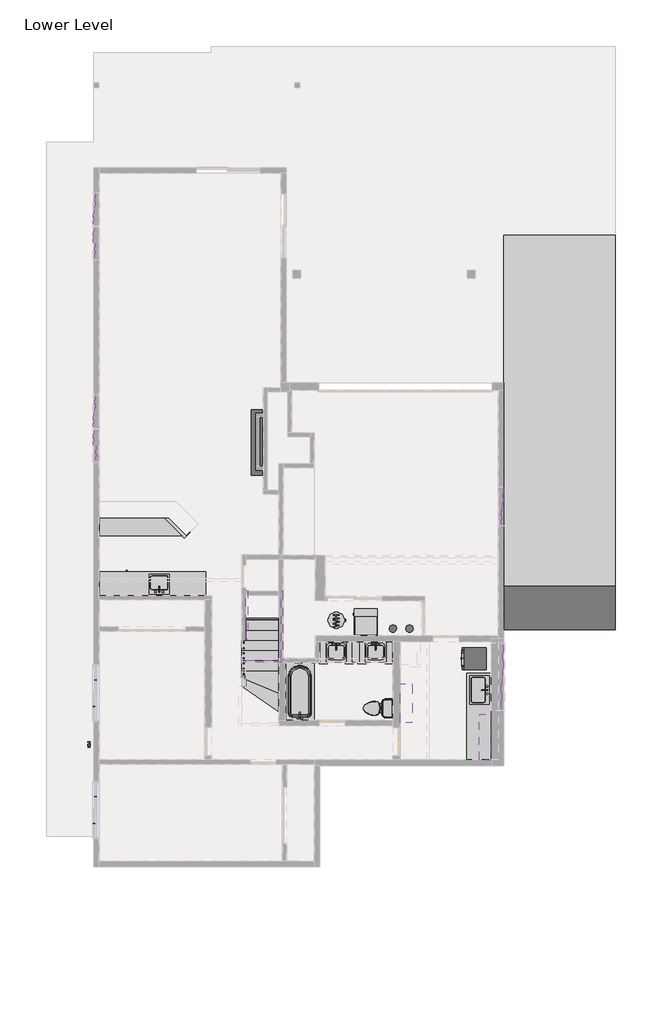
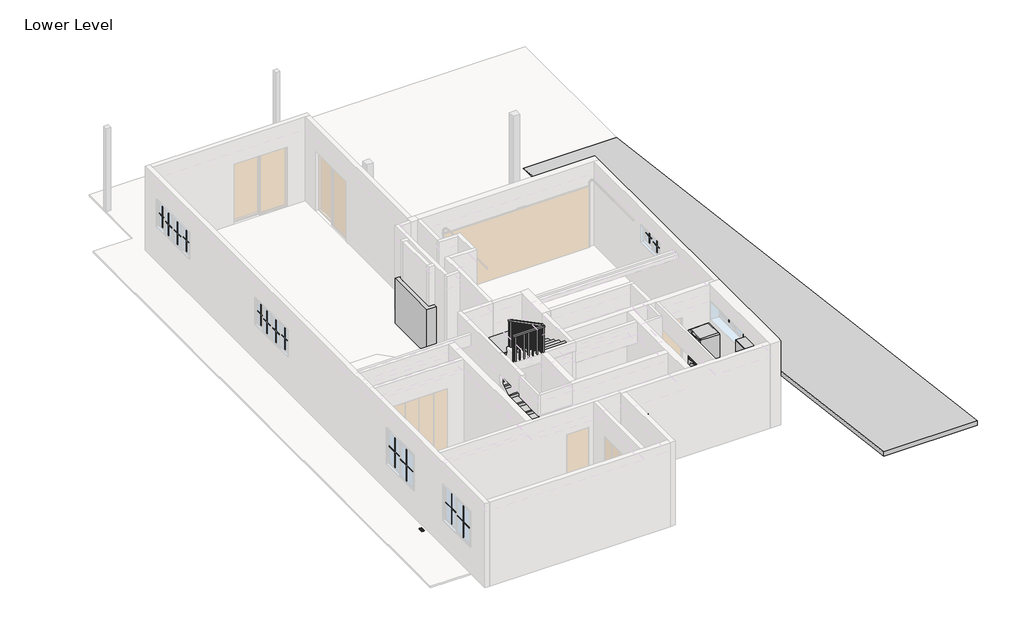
# One storey, part 3 of 3: 34 proxies, 6 flow terminals, 2 furniture elements, 2 railings, 1 ramp, 1 stair flight.
"""IFC4 building model written with IfcOpenShell, lengths in millimetres."""

from ifc_helpers import new_model, si_unit, frame, origin, origin_with_axes, place, context, project, spatial, polyline, outline, extrude, faceted_brep, transform, mapped, element, save
from components import countertop_rectangle_shape_base_default_1_3255693c, countertop_rectangle_shape_base_default_1_b1a04b2f, fireplace_default_1_dd52ab6f, furnace_default_1_517aed99, heat_recovery_ventilator_default_1_e4db727e, hot_water_heater_default_1_dcdfe45b, hydro_meter_default_1_de04d33e, muntin_pattern_2x2_muntin_pattern_2x2_5e7f5336, muntin_pattern_2x2_muntin_pattern_2x2_1f843837, muntin_pattern_2x2_muntin_pattern_2x2_a48e9f40, muntin_pattern_2x2_muntin_pattern_2x2_9f8866d9, muntin_pattern_2x2_muntin_pattern_2x2_3179e719, washer_dryer_combo_stacked_default_1_eb8726c9, washer_dryer_combo_stacked_default_1_a79531fe, wine_under_default_1_0eb686b8, flow_terminal_2d_kitchen_single_sink_default_1_444df6f0, flow_terminal_2d_kitchen_single_sink_default_1_1c0c6233, bath_basin_do_not_use_500_x_440mm_22030706, bath_bathtub_default_1_baae1865, toilet_default_1_5cb52bd4, toilet_default_1_183bbd19, furniture_8e5b1bc1, furniture_c8382fdc, railing_900mm_rectangular_stringer_only_816b19ed, ramp_2_5e5b59bc, stair_flight_50mm_tread_25mm_nosing_13mm_riser_cc5dda1c

model = new_model("IFC4")

# Units and contexts
model_context = context("Model", 3, world=origin())
ifc_project = project(units=[si_unit("LENGTHUNIT", "METRE", prefix="MILLI")], contexts=[model_context])

# Site, building, storey
site = spatial("IfcSite", under=ifc_project)
building = spatial("IfcBuilding", under=site)
storey = spatial("IfcBuildingStorey", under=building, Name="Lower Level", Elevation=-2844.8)

# Proxies
placement = place(None, origin())
element("IfcBuildingElementProxy", 1, Name="Countertop- Rectangle shape base : Default 1", ObjectType="Countertop- Rectangle shape base : Default 1", at=placement, inside=storey, context=model_context, shape_type="SweptSolid", body=[
    extrude(outline(polyline([(-3531.4755931, 381.3061456), (-3531.4755931, 112.2402436), (-3800.5414952, 381.3061456), (-3531.4755931, 381.3061456)])), frame((0.0, 0.0, -2844.8), z_axis=(0.0, 0.0, 1.0), x_axis=(1.0, 0.0, 0.0)), (0.0, 0.0, 1.0), 101.6),
    extrude(outline(polyline([(-3531.4755931, -2.1268711), (-5588.8755931, -2.1268711), (-5588.8755931, 381.3061456), (-3811.3268809, 381.3061456), (-3531.4755931, 101.4548579), (-3531.4755931, -2.1268711)])), frame((0.0, 0.0, -2844.8), z_axis=(0.0, 0.0, 1.0), x_axis=(1.0, 0.0, 0.0)), (0.0, 0.0, 1.0), 101.6),
    extrude(outline(polyline([(-5690.4755931, -103.7268711), (-5690.4755931, 482.9061456), (-3926.2209591, 482.9061456), (-3986.0232761, 423.1038286), (-3459.1925765, -103.7268711), (-5690.4755931, -103.7268711)])), frame((0.0, 0.0, -2743.2), z_axis=(0.0, 0.0, 1.0), x_axis=(1.0, 0.0, 0.0)), (0.0, 0.0, 1.0), 774.7),
    extrude(outline(polyline([(-3429.8755931, 482.9061456), (-3429.8755931, 143.5389558), (-3769.2427829, 482.9061456), (-3429.8755931, 482.9061456)])), frame((0.0, 0.0, -2743.2), z_axis=(0.0, 0.0, 1.0), x_axis=(1.0, 0.0, 0.0)), (0.0, 0.0, 1.0), 774.7),
    extrude(outline(polyline([(-5709.5255931, -122.7768711), (-5709.5255931, 501.9561456), (-3934.1117275, 501.9561456), (-4012.9640445, 423.1038286), (-3467.0833448, -122.7768711), (-5709.5255931, -122.7768711)])), frame((0.0, 0.0, -1968.5), z_axis=(0.0, 0.0, 1.0), x_axis=(1.0, 0.0, 0.0)), (0.0, 0.0, 1.0), 38.1),
    extrude(outline(polyline([(-3761.3520146, 501.9561456), (-3410.8255931, 501.9561456), (-3410.8255931, 151.4297242), (-3761.3520146, 501.9561456)])), frame((0.0, 0.0, -1968.5), z_axis=(0.0, 0.0, 1.0), x_axis=(1.0, 0.0, 0.0)), (0.0, 0.0, 1.0), 38.1),
])
element("IfcBuildingElementProxy", 2, Name="Countertop- Rectangle shape base : Default 1", ObjectType="Countertop- Rectangle shape base : Default 1", at=placement, inside=storey, context=model_context, shape_type="Brep", body=[
    faceted_brep([(-3403.518286, -26.5024493, -2743.2), (-3398.1255931, -21.1097564, -2743.2), (-3531.4755931, 112.2402436, -2743.2), (-3800.5414952, 381.3061456, -2743.2), (-3842.3391782, 423.1038286, -2743.2), (-3847.731871, 417.7111358, -2743.2), (-3811.3268809, 381.3061456, -2743.2), (-3531.4755931, 101.4548579, -2743.2), (-3403.518286, -26.5024493, -2844.8), (-3531.4755931, 101.4548579, -2844.8), (-3811.3268809, 381.3061456, -2844.8), (-3847.731871, 417.7111358, -2844.8), (-3842.3391782, 423.1038286, -2844.8), (-3800.5414952, 381.3061456, -2844.8), (-3531.4755931, 112.2402436, -2844.8), (-3398.1255931, -21.1097564, -2844.8)], [[[0, 1, 2, 3, 4, 5, 6, 7]], [[8, 9, 10, 11, 12, 13, 14, 15]], [[0, 7, 6, 5, 11, 10, 9, 8]], [[5, 4, 12, 11]], [[4, 3, 2, 1, 15, 14, 13, 12]], [[1, 0, 8, 15]]]),
    faceted_brep([(-3259.834188, -26.5024493, -2743.2), (-3398.1255931, -164.7938544, -2743.2), (-3459.1925765, -103.7268711, -2743.2), (-3986.0232761, 423.1038286, -2743.2), (-3926.2209591, 482.9061456, -2743.2), (-3847.731871, 561.3952337, -2743.2), (-3769.2427829, 482.9061456, -2743.2), (-3429.8755931, 143.5389558, -2743.2), (-3259.834188, -26.5024493, -1968.5), (-3429.8755931, 143.5389558, -1968.5), (-3769.2427829, 482.9061456, -1968.5), (-3847.731871, 561.3952337, -1968.5), (-3926.2209591, 482.9061456, -1968.5), (-3986.0232761, 423.1038286, -1968.5), (-3459.1925765, -103.7268711, -1968.5), (-3398.1255931, -164.7938544, -1968.5)], [[[0, 1, 2, 3, 4, 5, 6, 7]], [[8, 9, 10, 11, 12, 13, 14, 15]], [[11, 10, 9, 8, 0, 7, 6, 5]], [[13, 12, 11, 5, 4, 3]], [[15, 14, 13, 3, 2, 1]], [[8, 15, 1, 0]]]),
    faceted_brep([(-4012.9640445, 423.1038286, -1930.4), (-3467.0833448, -122.7768711, -1930.4), (-3398.1255931, -191.7346227, -1930.4), (-3232.8934197, -26.5024493, -1930.4), (-3410.8255931, 151.4297242, -1930.4), (-3761.3520146, 501.9561456, -1930.4), (-3847.731871, 588.3360021, -1930.4), (-3934.1117275, 501.9561456, -1930.4), (-4012.9640445, 423.1038286, -1968.5), (-3934.1117275, 501.9561456, -1968.5), (-3847.731871, 588.3360021, -1968.5), (-3761.3520146, 501.9561456, -1968.5), (-3410.8255931, 151.4297242, -1968.5), (-3232.8934197, -26.5024493, -1968.5), (-3398.1255931, -191.7346227, -1968.5), (-3467.0833448, -122.7768711, -1968.5)], [[[0, 1, 2, 3, 4, 5, 6, 7]], [[8, 9, 10, 11, 12, 13, 14, 15]], [[2, 1, 0, 8, 15, 14]], [[3, 2, 14, 13]], [[6, 5, 4, 3, 13, 12, 11, 10]], [[0, 7, 6, 10, 9, 8]]]),
])
element("IfcBuildingElementProxy", 3, Name="Countertop- Rectangle shape base : Default 1", ObjectType="Countertop- Rectangle shape base : Default 1", at=placement, inside=storey, context=model_context, shape_type="SolidModel", body=[
    extrude(outline(polyline([(335.6744069, -3079.4438544), (354.7244069, -3079.4438544), (354.7244069, -3460.1718487), (335.6744069, -3460.1718487), (335.6744069, -3079.4438544)])), frame((0.0, 0.0, -2844.8), z_axis=(0.0, 0.0, 1.0), x_axis=(1.0, 0.0, 0.0)), (0.0, 0.0, 1.0), 101.6),
    faceted_brep([(437.2744069, -2977.8438544, -2743.2), (437.2744069, -3517.5938544, -2743.2), (437.2744069, -3561.7718487, -2743.2), (253.1244069, -3561.7718487, -2743.2), (253.1244069, -2977.8438544, -2743.2), (437.2744069, -2977.8438544, -1968.5), (253.1244069, -2977.8438544, -1968.5), (253.1244069, -3561.7718487, -1968.5), (437.2744069, -3561.7718487, -1968.5), (437.2744069, -3517.5938544, -1968.5)], [[[0, 1, 2, 3, 4]], [[5, 6, 7, 8, 9]], [[6, 5, 0, 4]], [[7, 6, 4, 3]], [[8, 7, 3, 2]], [[5, 9, 8, 2, 1, 0]]]),
    extrude(outline(polyline([(234.0744069, -3580.8218487), (234.0744069, -2958.7938544), (418.2244069, -2958.7938544), (418.2244069, -3536.6438544), (456.3244069, -3536.6438544), (456.3244069, -3580.8218487), (234.0744069, -3580.8218487)])), frame((0.0, 0.0, -1968.5), z_axis=(0.0, 0.0, 1.0), x_axis=(1.0, 0.0, 0.0)), (0.0, 0.0, 1.0), 38.1),
])
element("IfcBuildingElementProxy", 4, Name="Countertop- Rectangle shape base : Default 1", ObjectType="Countertop- Rectangle shape base : Default 1", at=placement, inside=storey, context=model_context, shape_type="SolidModel", body=[
    extrude(outline(polyline([(1040.5244069, -3079.4438544), (1059.5744069, -3079.4438544), (1059.5744069, -3460.1718487), (1040.5244069, -3460.1718487), (1040.5244069, -3079.4438544)])), frame((0.0, 0.0, -2844.8), z_axis=(0.0, 0.0, 1.0), x_axis=(1.0, 0.0, 0.0)), (0.0, 0.0, 1.0), 101.6),
    faceted_brep([(1142.1244069, -2977.8438544, -2743.2), (1142.1244069, -3517.5938544, -2743.2), (1142.1244069, -3561.7718487, -2743.2), (957.9744069, -3561.7718487, -2743.2), (957.9744069, -3517.5938544, -2743.2), (957.9744069, -2977.8438544, -2743.2), (1142.1244069, -2977.8438544, -1968.5), (957.9744069, -2977.8438544, -1968.5), (957.9744069, -3517.5938544, -1968.5), (957.9744069, -3561.7718487, -1968.5), (1142.1244069, -3561.7718487, -1968.5), (1142.1244069, -3517.5938544, -1968.5)], [[[0, 1, 2, 3, 4, 5]], [[6, 7, 8, 9, 10, 11]], [[7, 6, 0, 5]], [[9, 8, 7, 5, 4, 3]], [[10, 9, 3, 2]], [[6, 11, 10, 2, 1, 0]]]),
    extrude(outline(polyline([(1161.1744069, -3580.8218487), (938.9244069, -3580.8218487), (938.9244069, -3536.6438544), (977.0244069, -3536.6438544), (977.0244069, -2958.7938544), (1123.0744069, -2958.7938544), (1123.0744069, -3536.6438544), (1161.1744069, -3536.6438544), (1161.1744069, -3580.8218487)])), frame((0.0, 0.0, -1968.5), z_axis=(0.0, 0.0, 1.0), x_axis=(1.0, 0.0, 0.0)), (0.0, 0.0, 1.0), 38.1),
])
element("IfcBuildingElementProxy", 5, Name="Countertop- Rectangle shape base : Default 1", ObjectType="Countertop- Rectangle shape base : Default 1", at=placement, inside=storey, context=model_context, shape_type="SolidModel", body=[
    extrude(outline(polyline([(1383.4244069, -3079.4438544), (1402.4744069, -3079.4438544), (1402.4744069, -3460.1718487), (1383.4244069, -3460.1718487), (1383.4244069, -3079.4438544)])), frame((0.0, 0.0, -2844.8), z_axis=(0.0, 0.0, 1.0), x_axis=(1.0, 0.0, 0.0)), (0.0, 0.0, 1.0), 101.6),
    faceted_brep([(1485.0244069, -2977.8438544, -2743.2), (1485.0244069, -3517.5938544, -2743.2), (1485.0244069, -3561.7718487, -2743.2), (1300.8744069, -3561.7718487, -2743.2), (1300.8744069, -3517.5938544, -2743.2), (1300.8744069, -2977.8438544, -2743.2), (1485.0244069, -2977.8438544, -1968.5), (1300.8744069, -2977.8438544, -1968.5), (1300.8744069, -3517.5938544, -1968.5), (1300.8744069, -3561.7718487, -1968.5), (1485.0244069, -3561.7718487, -1968.5), (1485.0244069, -3517.5938544, -1968.5)], [[[0, 1, 2, 3, 4, 5]], [[6, 7, 8, 9, 10, 11]], [[7, 6, 0, 5]], [[9, 8, 7, 5, 4, 3]], [[10, 9, 3, 2]], [[6, 11, 10, 2, 1, 0]]]),
    extrude(outline(polyline([(1504.0744069, -3580.8218487), (1281.8244069, -3580.8218487), (1281.8244069, -3536.6438544), (1319.9244069, -3536.6438544), (1319.9244069, -2958.7938544), (1465.9744069, -2958.7938544), (1465.9744069, -3536.6438544), (1504.0744069, -3536.6438544), (1504.0744069, -3580.8218487)])), frame((0.0, 0.0, -1968.5), z_axis=(0.0, 0.0, 1.0), x_axis=(1.0, 0.0, 0.0)), (0.0, 0.0, 1.0), 38.1),
])
element("IfcBuildingElementProxy", 6, Name="Countertop- Rectangle shape base : Default 1", ObjectType="Countertop- Rectangle shape base : Default 1", at=placement, inside=storey, context=model_context, shape_type="SolidModel", body=[
    extrude(outline(polyline([(2120.0244069, -3079.4438544), (2139.0744069, -3079.4438544), (2139.0744069, -3460.1718487), (2120.0244069, -3460.1718487), (2120.0244069, -3079.4438544)])), frame((0.0, 0.0, -2844.8), z_axis=(0.0, 0.0, 1.0), x_axis=(1.0, 0.0, 0.0)), (0.0, 0.0, 1.0), 101.6),
    faceted_brep([(2221.6244069, -2977.8438544, -2743.2), (2221.6244069, -3561.7718487, -2743.2), (2037.4744069, -3561.7718487, -2743.2), (2037.4744069, -3517.5938544, -2743.2), (2037.4744069, -2977.8438544, -2743.2), (2221.6244069, -2977.8438544, -1968.5), (2037.4744069, -2977.8438544, -1968.5), (2037.4744069, -3517.5938544, -1968.5), (2037.4744069, -3561.7718487, -1968.5), (2221.6244069, -3561.7718487, -1968.5)], [[[0, 1, 2, 3, 4]], [[5, 6, 7, 8, 9]], [[6, 5, 0, 4]], [[8, 7, 6, 4, 3, 2]], [[9, 8, 2, 1]], [[5, 9, 1, 0]]]),
    extrude(outline(polyline([(2240.6744069, -2958.7938544), (2240.6744069, -3580.8218487), (2018.4244069, -3580.8218487), (2018.4244069, -3536.6438544), (2056.5244069, -3536.6438544), (2056.5244069, -2958.7938544), (2240.6744069, -2958.7938544)])), frame((0.0, 0.0, -1968.5), z_axis=(0.0, 0.0, 1.0), x_axis=(1.0, 0.0, 0.0)), (0.0, 0.0, 1.0), 38.1),
])
element("IfcBuildingElementProxy", 7, Name="Countertop- Rectangle shape base : Default 1", ObjectType="Countertop- Rectangle shape base : Default 1", at=placement, inside=storey, context=model_context, shape_type="SolidModel", body=[
    extrude(outline(polyline([(856.3744069, -3079.4438544), (856.3744069, -3415.9938544), (538.8744069, -3415.9938544), (538.8744069, -3079.4438544), (856.3744069, -3079.4438544)])), frame((0.0, 0.0, -2844.8), z_axis=(0.0, 0.0, 1.0), x_axis=(1.0, 0.0, 0.0)), (0.0, 0.0, 1.0), 101.6),
    extrude(outline(polyline([(957.9744069, -2977.8438544), (957.9744069, -3517.5938544), (437.2744069, -3517.5938544), (437.2744069, -2977.8438544), (957.9744069, -2977.8438544)])), frame((0.0, 0.0, -2743.2), z_axis=(0.0, 0.0, 1.0), x_axis=(1.0, 0.0, 0.0)), (0.0, 0.0, 1.0), 774.7),
    faceted_brep([(418.2244069, -3536.6438544, -1930.4), (456.3244069, -3536.6438544, -1930.4), (938.9244069, -3536.6438544, -1930.4), (977.0244069, -3536.6438544, -1930.4), (977.0244069, -2958.7938544, -1930.4), (418.2244069, -2958.7938544, -1930.4), (418.2244069, -3536.6438544, -1968.5), (418.2244069, -2958.7938544, -1968.5), (977.0244069, -2958.7938544, -1968.5), (977.0244069, -3536.6438544, -1968.5), (938.9244069, -3536.6438544, -1968.5), (456.3244069, -3536.6438544, -1968.5)], [[[0, 1, 2, 3, 4, 5]], [[6, 7, 8, 9, 10, 11]], [[3, 2, 1, 0, 6, 11, 10, 9]], [[4, 3, 9, 8]], [[5, 4, 8, 7]], [[0, 5, 7, 6]]]),
])
element("IfcBuildingElementProxy", 8, Name="Countertop- Rectangle shape base : Default 1", ObjectType="Countertop- Rectangle shape base : Default 1", at=placement, inside=storey, context=model_context, shape_type="SolidModel", body=[
    faceted_brep([(1465.9744069, -3536.6438544, -1930.4), (1504.0744069, -3536.6438544, -1930.4), (2018.4244069, -3536.6438544, -1930.4), (2056.5244069, -3536.6438544, -1930.4), (2056.5244069, -2958.7938544, -1930.4), (1465.9744069, -2958.7938544, -1930.4), (1465.9744069, -3536.6438544, -1968.5), (1465.9744069, -2958.7938544, -1968.5), (2056.5244069, -2958.7938544, -1968.5), (2056.5244069, -3536.6438544, -1968.5), (2018.4244069, -3536.6438544, -1968.5), (1504.0744069, -3536.6438544, -1968.5)], [[[0, 1, 2, 3, 4, 5]], [[6, 7, 8, 9, 10, 11]], [[3, 2, 1, 0, 6, 11, 10, 9]], [[4, 3, 9, 8]], [[5, 4, 8, 7]], [[0, 5, 7, 6]]]),
    extrude(outline(polyline([(1935.8744069, -3079.4438544), (1935.8744069, -3415.9938544), (1586.6244069, -3415.9938544), (1586.6244069, -3079.4438544), (1935.8744069, -3079.4438544)])), frame((0.0, 0.0, -2844.8), z_axis=(0.0, 0.0, 1.0), x_axis=(1.0, 0.0, 0.0)), (0.0, 0.0, 1.0), 101.6),
    extrude(outline(polyline([(2037.4744069, -2977.8438544), (2037.4744069, -3517.5938544), (1485.0244069, -3517.5938544), (1485.0244069, -2977.8438544), (2037.4744069, -2977.8438544)])), frame((0.0, 0.0, -2743.2), z_axis=(0.0, 0.0, 1.0), x_axis=(1.0, 0.0, 0.0)), (0.0, 0.0, 1.0), 774.7),
])
element("IfcBuildingElementProxy", 9, Name="Countertop- Rectangle shape base : Default 1", ObjectType="Countertop- Rectangle shape base : Default 1", at=placement, inside=storey, context=model_context, shape_type="SolidModel", body=[
    extrude(outline(polyline([(1199.2744069, -3079.4438544), (1243.7244069, -3079.4438544), (1243.7244069, -3415.9938544), (1199.2744069, -3415.9938544), (1199.2744069, -3079.4438544)])), frame((0.0, 0.0, -2844.8), z_axis=(0.0, 0.0, 1.0), x_axis=(1.0, 0.0, 0.0)), (0.0, 0.0, 1.0), 101.6),
    extrude(outline(polyline([(1300.8744069, -2977.8438544), (1300.8744069, -3517.5938544), (1142.1244069, -3517.5938544), (1142.1244069, -2977.8438544), (1300.8744069, -2977.8438544)])), frame((0.0, 0.0, -2743.2), z_axis=(0.0, 0.0, 1.0), x_axis=(1.0, 0.0, 0.0)), (0.0, 0.0, 1.0), 774.7),
    faceted_brep([(1123.0744069, -3536.6438544, -1930.4), (1161.1744069, -3536.6438544, -1930.4), (1281.8244069, -3536.6438544, -1930.4), (1319.9244069, -3536.6438544, -1930.4), (1319.9244069, -2958.7938544, -1930.4), (1123.0744069, -2958.7938544, -1930.4), (1123.0744069, -3536.6438544, -1968.5), (1123.0744069, -2958.7938544, -1968.5), (1319.9244069, -2958.7938544, -1968.5), (1319.9244069, -3536.6438544, -1968.5), (1281.8244069, -3536.6438544, -1968.5), (1161.1744069, -3536.6438544, -1968.5)], [[[0, 1, 2, 3, 4, 5]], [[6, 7, 8, 9, 10, 11]], [[3, 2, 1, 0, 6, 11, 10, 9]], [[4, 3, 9, 8]], [[5, 4, 8, 7]], [[0, 5, 7, 6]]]),
])
countertop_rectangle_shape_base_default_1_shape = countertop_rectangle_shape_base_default_1_3255693c(model_context)
element("IfcBuildingElementProxy", 10, Name="Countertop- Rectangle shape base : Default 1", ObjectType="Countertop- Rectangle shape base : Default 1", at=placement, inside=storey, context=model_context, shape_type="MappedRepresentation", body=[
    mapped(countertop_rectangle_shape_base_default_1_shape, transform((-5030.0755931, -1809.4438544, -2844.8), x_axis=(1.0, 0.0, 0.0), y_axis=(0.0, 1.0, 0.0), z_axis=(0.0, 0.0, 1.0))),
])
countertop_rectangle_shape_base_default_1_2_shape = countertop_rectangle_shape_base_default_1_b1a04b2f(model_context)
element("IfcBuildingElementProxy", 11, Name="Countertop- Rectangle shape base : Default 1", ObjectType="Countertop- Rectangle shape base : Default 1", at=placement, inside=storey, context=model_context, shape_type="MappedRepresentation", body=[
    mapped(countertop_rectangle_shape_base_default_1_2_shape, transform((4174.2494069, -4247.8438544, -2844.8), x_axis=(0.0, -1.0, 0.0), y_axis=(1.0, 0.0, 0.0), z_axis=(0.0, 0.0, 1.0))),
])
fireplace_default_1_shape = fireplace_default_1_dd52ab6f(model_context)
element("IfcBuildingElementProxy", 12, Name="Fireplace : Default 1", ObjectType="Fireplace : Default 1", at=placement, inside=storey, context=model_context, shape_type="MappedRepresentation", body=[
    mapped(fireplace_default_1_shape, transform((-1447.4473217, 3370.5205539, -2844.8), x_axis=(1.0, 0.0, 0.0), y_axis=(0.0, 1.0, 0.0), z_axis=(0.0, 0.0, 1.0))),
])
furnace_default_1_shape = furnace_default_1_517aed99(model_context)
element("IfcBuildingElementProxy", 13, Name="Furnace : Default 1", ObjectType="Furnace : Default 1", at=placement, inside=storey, context=model_context, shape_type="MappedRepresentation", body=[
    mapped(furnace_default_1_shape, transform((1186.5744069, -2812.7438544, -2844.8), x_axis=(-1.0, 0.0, 0.0), y_axis=(0.0, -1.0, 0.0), z_axis=(0.0, 0.0, 1.0))),
])
heat_recovery_ventilator_default_1_shape = heat_recovery_ventilator_default_1_e4db727e(model_context)
element("IfcBuildingElementProxy", 14, Name="Heat Recovery Ventilator : Default 1", ObjectType="Heat Recovery Ventilator : Default 1", at=placement, inside=storey, context=model_context, shape_type="MappedRepresentation", body=[
    mapped(heat_recovery_ventilator_default_1_shape, transform((2325.2244069, -2895.2938544, -2844.8), x_axis=(1.0, 0.0, 0.0), y_axis=(0.0, 1.0, 0.0), z_axis=(0.0, 0.0, 1.0))),
])
hot_water_heater_default_1_shape = hot_water_heater_default_1_dcdfe45b(model_context)
element("IfcBuildingElementProxy", 15, Name="Hot Water Heater : Default 1", ObjectType="Hot Water Heater : Default 1", at=placement, inside=storey, context=model_context, shape_type="MappedRepresentation", body=[
    mapped(hot_water_heater_default_1_shape, transform((697.6244069, -2399.9938544, -2844.8), x_axis=(0.0, 1.0, 0.0), y_axis=(-1.0, 0.0, 0.0), z_axis=(0.0, 0.0, 1.0))),
])
hydro_meter_default_1_shape = hydro_meter_default_1_de04d33e(model_context)
element("IfcBuildingElementProxy", 16, Name="Hydro Meter : Default 1", ObjectType="Hydro Meter : Default 1", at=placement, inside=storey, context=model_context, shape_type="MappedRepresentation", body=[
    mapped(hydro_meter_default_1_shape, transform((-5842.8755931, -5936.9438544, -2844.8), x_axis=(0.0, 1.0, 0.0), y_axis=(-1.0, 0.0, 0.0), z_axis=(0.0, 0.0, 1.0))),
])
muntin_pattern_2x2_muntin_pattern_2x2_shape = muntin_pattern_2x2_muntin_pattern_2x2_5e7f5336(model_context)
element("IfcBuildingElementProxy", 17, Name="Muntin Pattern_2x2 : Muntin Pattern_2x2", ObjectType="Muntin Pattern_2x2 : Muntin Pattern_2x2", at=placement, inside=storey, context=model_context, shape_type="MappedRepresentation", body=[
    mapped(muntin_pattern_2x2_muntin_pattern_2x2_shape, transform((-5788.9005931, 3428.6726026, -1543.05), x_axis=(0.0, 1.0, 0.0), y_axis=(-1.0, 0.0, 0.0), z_axis=(0.0, 0.0, 1.0))),
])
element("IfcBuildingElementProxy", 18, Name="Muntin Pattern_2x2 : Muntin Pattern_2x2", ObjectType="Muntin Pattern_2x2 : Muntin Pattern_2x2", at=placement, inside=storey, context=model_context, shape_type="MappedRepresentation", body=[
    mapped(muntin_pattern_2x2_muntin_pattern_2x2_shape, transform((-5833.3505931, 3012.7476026, -1543.05), x_axis=(0.0, 1.0, 0.0), y_axis=(-1.0, 0.0, 0.0), z_axis=(0.0, 0.0, 1.0))),
])
element("IfcBuildingElementProxy", 19, Name="Muntin Pattern_2x2 : Muntin Pattern_2x2", ObjectType="Muntin Pattern_2x2 : Muntin Pattern_2x2", at=placement, inside=storey, context=model_context, shape_type="MappedRepresentation", body=[
    mapped(muntin_pattern_2x2_muntin_pattern_2x2_shape, transform((-5788.9005931, 8889.6726026, -1543.05), x_axis=(0.0, 1.0, 0.0), y_axis=(-1.0, 0.0, 0.0), z_axis=(0.0, 0.0, 1.0))),
])
element("IfcBuildingElementProxy", 20, Name="Muntin Pattern_2x2 : Muntin Pattern_2x2", ObjectType="Muntin Pattern_2x2 : Muntin Pattern_2x2", at=placement, inside=storey, context=model_context, shape_type="MappedRepresentation", body=[
    mapped(muntin_pattern_2x2_muntin_pattern_2x2_shape, transform((-5833.3505931, 8473.7476026, -1543.05), x_axis=(0.0, 1.0, 0.0), y_axis=(-1.0, 0.0, 0.0), z_axis=(0.0, 0.0, 1.0))),
])
muntin_pattern_2x2_muntin_pattern_2x2_2_shape = muntin_pattern_2x2_muntin_pattern_2x2_1f843837(model_context)
element("IfcBuildingElementProxy", 21, Name="Muntin Pattern_2x2 : Muntin Pattern_2x2", ObjectType="Muntin Pattern_2x2 : Muntin Pattern_2x2", at=placement, inside=storey, context=model_context, shape_type="MappedRepresentation", body=[
    mapped(muntin_pattern_2x2_muntin_pattern_2x2_2_shape, transform((-5788.9005931, 2098.3476026, -1543.05), x_axis=(0.0, -1.0, 0.0), y_axis=(1.0, 0.0, 0.0), z_axis=(0.0, 0.0, 1.0))),
])
element("IfcBuildingElementProxy", 22, Name="Muntin Pattern_2x2 : Muntin Pattern_2x2", ObjectType="Muntin Pattern_2x2 : Muntin Pattern_2x2", at=placement, inside=storey, context=model_context, shape_type="MappedRepresentation", body=[
    mapped(muntin_pattern_2x2_muntin_pattern_2x2_2_shape, transform((-5833.3505931, 2514.2726026, -1543.05), x_axis=(0.0, -1.0, 0.0), y_axis=(1.0, 0.0, 0.0), z_axis=(0.0, 0.0, 1.0))),
])
element("IfcBuildingElementProxy", 23, Name="Muntin Pattern_2x2 : Muntin Pattern_2x2", ObjectType="Muntin Pattern_2x2 : Muntin Pattern_2x2", at=placement, inside=storey, context=model_context, shape_type="MappedRepresentation", body=[
    mapped(muntin_pattern_2x2_muntin_pattern_2x2_2_shape, transform((-5788.9005931, 7559.3476026, -1543.05), x_axis=(0.0, -1.0, 0.0), y_axis=(1.0, 0.0, 0.0), z_axis=(0.0, 0.0, 1.0))),
])
element("IfcBuildingElementProxy", 24, Name="Muntin Pattern_2x2 : Muntin Pattern_2x2", ObjectType="Muntin Pattern_2x2 : Muntin Pattern_2x2", at=placement, inside=storey, context=model_context, shape_type="MappedRepresentation", body=[
    mapped(muntin_pattern_2x2_muntin_pattern_2x2_2_shape, transform((-5833.3505931, 7975.2726026, -1543.05), x_axis=(0.0, -1.0, 0.0), y_axis=(1.0, 0.0, 0.0), z_axis=(0.0, 0.0, 1.0))),
])
muntin_pattern_2x2_muntin_pattern_2x2_3_shape = muntin_pattern_2x2_muntin_pattern_2x2_a48e9f40(model_context)
element("IfcBuildingElementProxy", 25, Name="Muntin Pattern_2x2 : Muntin Pattern_2x2", ObjectType="Muntin Pattern_2x2 : Muntin Pattern_2x2", at=placement, inside=storey, context=model_context, shape_type="MappedRepresentation", body=[
    mapped(muntin_pattern_2x2_muntin_pattern_2x2_3_shape, transform((5164.8494069, 420.9936456, -1085.85), x_axis=(0.0, -1.0, 0.0), y_axis=(1.0, 0.0, 0.0), z_axis=(0.0, 0.0, 1.0))),
])
element("IfcBuildingElementProxy", 26, Name="Muntin Pattern_2x2 : Muntin Pattern_2x2", ObjectType="Muntin Pattern_2x2 : Muntin Pattern_2x2", at=placement, inside=storey, context=model_context, shape_type="MappedRepresentation", body=[
    mapped(muntin_pattern_2x2_muntin_pattern_2x2_3_shape, transform((5209.2994069, 913.1186456, -1085.85), x_axis=(0.0, -1.0, 0.0), y_axis=(1.0, 0.0, 0.0), z_axis=(0.0, 0.0, 1.0))),
])
muntin_pattern_2x2_muntin_pattern_2x2_4_shape = muntin_pattern_2x2_muntin_pattern_2x2_9f8866d9(model_context)
element("IfcBuildingElementProxy", 27, Name="Muntin Pattern_2x2 : Muntin Pattern_2x2", ObjectType="Muntin Pattern_2x2 : Muntin Pattern_2x2", at=placement, inside=storey, context=model_context, shape_type="MappedRepresentation", body=[
    mapped(muntin_pattern_2x2_muntin_pattern_2x2_4_shape, transform((5164.8494069, -4360.5563544, -1085.85), x_axis=(0.0, -1.0, 0.0), y_axis=(1.0, 0.0, 0.0), z_axis=(0.0, 0.0, 1.0))),
])
element("IfcBuildingElementProxy", 28, Name="Muntin Pattern_2x2 : Muntin Pattern_2x2", ObjectType="Muntin Pattern_2x2 : Muntin Pattern_2x2", at=placement, inside=storey, context=model_context, shape_type="MappedRepresentation", body=[
    mapped(muntin_pattern_2x2_muntin_pattern_2x2_4_shape, transform((5209.2994069, -3487.4313544, -1085.85), x_axis=(0.0, -1.0, 0.0), y_axis=(1.0, 0.0, 0.0), z_axis=(0.0, 0.0, 1.0))),
])
muntin_pattern_2x2_muntin_pattern_2x2_5_shape = muntin_pattern_2x2_muntin_pattern_2x2_3179e719(model_context)
element("IfcBuildingElementProxy", 29, Name="Muntin Pattern_2x2 : Muntin Pattern_2x2", ObjectType="Muntin Pattern_2x2 : Muntin Pattern_2x2", at=placement, inside=storey, context=model_context, shape_type="MappedRepresentation", body=[
    mapped(muntin_pattern_2x2_muntin_pattern_2x2_5_shape, transform((-5788.9005931, -7157.7313544, -1847.85), x_axis=(0.0, 1.0, 0.0), y_axis=(-1.0, 0.0, 0.0), z_axis=(0.0, 0.0, 1.0))),
])
element("IfcBuildingElementProxy", 30, Name="Muntin Pattern_2x2 : Muntin Pattern_2x2", ObjectType="Muntin Pattern_2x2 : Muntin Pattern_2x2", at=placement, inside=storey, context=model_context, shape_type="MappedRepresentation", body=[
    mapped(muntin_pattern_2x2_muntin_pattern_2x2_5_shape, transform((-5833.3505931, -7878.4563544, -1847.85), x_axis=(0.0, 1.0, 0.0), y_axis=(-1.0, 0.0, 0.0), z_axis=(0.0, 0.0, 1.0))),
])
element("IfcBuildingElementProxy", 31, Name="Muntin Pattern_2x2 : Muntin Pattern_2x2", ObjectType="Muntin Pattern_2x2 : Muntin Pattern_2x2", at=placement, inside=storey, context=model_context, shape_type="MappedRepresentation", body=[
    mapped(muntin_pattern_2x2_muntin_pattern_2x2_5_shape, transform((-5788.9005931, -4008.1313544, -1847.85), x_axis=(0.0, 1.0, 0.0), y_axis=(-1.0, 0.0, 0.0), z_axis=(0.0, 0.0, 1.0))),
])
element("IfcBuildingElementProxy", 32, Name="Muntin Pattern_2x2 : Muntin Pattern_2x2", ObjectType="Muntin Pattern_2x2 : Muntin Pattern_2x2", at=placement, inside=storey, context=model_context, shape_type="MappedRepresentation", body=[
    mapped(muntin_pattern_2x2_muntin_pattern_2x2_5_shape, transform((-5833.3505931, -4728.8563544, -1847.85), x_axis=(0.0, 1.0, 0.0), y_axis=(-1.0, 0.0, 0.0), z_axis=(0.0, 0.0, 1.0))),
])
washer_dryer_combo_stacked_default_1_shape = washer_dryer_combo_stacked_default_1_eb8726c9(model_context)
washer_dryer_combo_stacked_default_1_2_shape = washer_dryer_combo_stacked_default_1_a79531fe(model_context)
element("IfcBuildingElementProxy", 33, Name="Washer/Dryer Combo Stacked : Default 1", ObjectType="Washer/Dryer Combo Stacked : Default 1", at=placement, inside=storey, context=model_context, shape_type="MappedRepresentation", body=[
    mapped(washer_dryer_combo_stacked_default_1_shape, transform((4744.5744069, -3436.4938544, -2844.8), x_axis=(0.0, -1.0, 0.0), y_axis=(1.0, 0.0, 0.0), z_axis=(0.0, 0.0, 1.0))),
    mapped(washer_dryer_combo_stacked_default_1_2_shape, transform((4744.5744069, -3436.4938544, -2844.8), x_axis=(0.0, -1.0, 0.0), y_axis=(1.0, 0.0, 0.0), z_axis=(0.0, 0.0, 1.0))),
])
wine_under_default_1_shape = wine_under_default_1_0eb686b8(model_context)
element("IfcBuildingElementProxy", 34, Name="Wine_Under : Default 1", ObjectType="Wine_Under : Default 1", at=placement, inside=storey, context=model_context, shape_type="MappedRepresentation", body=[
    mapped(wine_under_default_1_shape, transform((-4687.4755931, -1717.2938544, -2844.8), x_axis=(-1.0, 0.0, 0.0), y_axis=(0.0, -1.0, 0.0), z_axis=(0.0, 0.0, 1.0))),
])

# Flow terminals
flow_terminal_2d_kitchen_single_sink_default_1_shape = flow_terminal_2d_kitchen_single_sink_default_1_444df6f0(model_context)
element("IfcFlowTerminal", 35, ObjectType="2D Kitchen-Single Sink : Default 1", at=placement, inside=storey, context=model_context, shape_type="MappedRepresentation", body=[
    mapped(flow_terminal_2d_kitchen_single_sink_default_1_shape, transform((4559.9560058, -4267.5211138, -2692.4), x_axis=(0.0, -1.0, 0.0), y_axis=(1.0, 0.0, 0.0), z_axis=(0.0, 0.0, 1.0))),
])
flow_terminal_2d_kitchen_single_sink_default_1_2_shape = flow_terminal_2d_kitchen_single_sink_default_1_1c0c6233(model_context)
element("IfcFlowTerminal", 36, ObjectType="2D Kitchen-Single Sink : Default 1", at=placement, inside=storey, context=model_context, shape_type="MappedRepresentation", body=[
    mapped(flow_terminal_2d_kitchen_single_sink_default_1_2_shape, transform((-4059.0863526, -1424.9484533, -2692.4), x_axis=(-1.0, 0.0, 0.0), y_axis=(0.0, -1.0, 0.0), z_axis=(0.0, 0.0, 1.0))),
])
bath_basin_do_not_use_500_x_440mm_shape = bath_basin_do_not_use_500_x_440mm_22030706(model_context)
element("IfcFlowTerminal", 37, ObjectType="Bath-Basin DO NOT USE : 500 x 440mm", at=placement, inside=storey, context=model_context, shape_type="MappedRepresentation", body=[
    mapped(bath_basin_do_not_use_500_x_440mm_shape, transform((681.9351663, -3207.8642554, -2692.4), x_axis=(1.0, 0.0, 0.0), y_axis=(0.0, 1.0, 0.0), z_axis=(0.0, 0.0, 1.0))),
])
element("IfcFlowTerminal", 38, ObjectType="Bath-Basin DO NOT USE : 500 x 440mm", at=placement, inside=storey, context=model_context, shape_type="MappedRepresentation", body=[
    mapped(bath_basin_do_not_use_500_x_440mm_shape, transform((1745.5601663, -3207.8642554, -2692.4), x_axis=(1.0, 0.0, 0.0), y_axis=(0.0, 1.0, 0.0), z_axis=(0.0, 0.0, 1.0))),
])
bath_bathtub_default_1_shape = bath_bathtub_default_1_baae1865(model_context)
element("IfcFlowTerminal", 39, ObjectType="Bath-Bathtub : Default 1", at=placement, inside=storey, context=model_context, shape_type="MappedRepresentation", body=[
    mapped(bath_bathtub_default_1_shape, transform((-756.5255931, -3988.268846, -2844.8), x_axis=(0.0, 1.0, 0.0), y_axis=(-1.0, 0.0, 0.0), z_axis=(0.0, 0.0, 1.0))),
])
toilet_default_1_shape = toilet_default_1_5cb52bd4(model_context)
toilet_default_1_2_shape = toilet_default_1_183bbd19(model_context)
element("IfcFlowTerminal", 40, ObjectType="Toilet : Default 1", at=placement, inside=storey, context=model_context, shape_type="MappedRepresentation", body=[
    mapped(toilet_default_1_shape, transform((1727.2283795, -4776.4938544, -2844.8), x_axis=(0.0, -1.0, 0.0), y_axis=(1.0, 0.0, 0.0), z_axis=(0.0, 0.0, 1.0))),
    mapped(toilet_default_1_2_shape, transform((1727.2283795, -4776.4938544, -2844.8), x_axis=(0.0, -1.0, 0.0), y_axis=(1.0, 0.0, 0.0), z_axis=(0.0, 0.0, 1.0))),
])

# Furniture
furniture_shape = furniture_8e5b1bc1(model_context)
element("IfcFurniture", 41, ObjectType="Upper Cabinet-Single Door-Wall : 12\"", at=placement, inside=storey, context=model_context, shape_type="MappedRepresentation", body=[
    mapped(furniture_shape, transform((5047.3744069, -5195.7618061, -2717.8), x_axis=(0.0, 1.0, 0.0), y_axis=(-1.0, 0.0, 0.0), z_axis=(0.0, 0.0, 1.0))),
])
furniture_2_shape = furniture_c8382fdc(model_context)
element("IfcFurniture", 42, ObjectType="Upper Cabinet-Single Door-Wall : 12\"", at=placement, inside=storey, context=model_context, shape_type="MappedRepresentation", body=[
    mapped(furniture_2_shape, transform((2323.2244069, -4913.2955275, -2844.8), x_axis=(0.0, -1.0, 0.0), y_axis=(1.0, 0.0, 0.0), z_axis=(0.0, 0.0, 1.0))),
])

# Railings
element("IfcRailing", 43, ObjectType="900mm Rectangular", at=placement, inside=storey, context=model_context, shape_type="SolidModel", body=[
    faceted_brep([(-737.8755931, -1602.8511592, -48.2666667), (-737.8755931, -1602.8511592, -104.6078839), (-787.8755931, -1602.8511592, -104.6078839), (-787.8755931, -1602.8511592, -48.2666667), (-1740.7755931, -3529.8938544, 900.0), (-1740.7755931, -3479.8938544, 900.0), (-1740.7755931, -3479.8938544, 850.0), (-1740.7755931, -3529.8938544, 850.0), (-737.8755931, -3428.6938544, 900.0), (-737.8755931, -3440.9035688, 850.0), (-787.8755931, -3440.9035688, 850.0), (-787.8755931, -3428.6938544, 900.0), (-737.8755931, -3529.8938544, 850.0), (-737.8755931, -3529.8938544, 900.0), (-787.8755931, -3479.8938544, 850.0), (-787.8755931, -3479.8938544, 900.0)], [[[0, 1, 2, 3]], [[4, 5, 6, 7]], [[1, 0, 8, 9]], [[2, 1, 9, 10]], [[3, 2, 10, 11]], [[0, 3, 11, 8]], [[12, 13, 4, 7]], [[14, 12, 7, 6]], [[15, 14, 6, 5]], [[13, 15, 5, 4]], [[9, 8, 13, 12]], [[10, 9, 12, 14]], [[11, 10, 14, 15]], [[8, 11, 15, 13]]]),
    extrude(outline(polyline([(-1644.1255931, -3492.3938544), (-1644.1255931, -3517.3938544), (-1669.1255931, -3517.3938544), (-1669.1255931, -3492.3938544), (-1644.1255931, -3492.3938544)])), origin_with_axes(), (0.0, 0.0, 1.0), 850.0),
    extrude(outline(polyline([(-1506.6255931, -3492.3938544), (-1506.6255931, -3517.3938544), (-1531.6255931, -3517.3938544), (-1531.6255931, -3492.3938544), (-1506.6255931, -3492.3938544)])), origin_with_axes(), (0.0, 0.0, 1.0), 850.0),
    extrude(outline(polyline([(-1369.1255931, -3492.3938544), (-1369.1255931, -3517.3938544), (-1394.1255931, -3517.3938544), (-1394.1255931, -3492.3938544), (-1369.1255931, -3492.3938544)])), origin_with_axes(), (0.0, 0.0, 1.0), 850.0),
    extrude(outline(polyline([(-1231.6255931, -3492.3938544), (-1231.6255931, -3517.3938544), (-1256.6255931, -3517.3938544), (-1256.6255931, -3492.3938544), (-1231.6255931, -3492.3938544)])), origin_with_axes(), (0.0, 0.0, 1.0), 850.0),
    extrude(outline(polyline([(-1094.1255931, -3492.3938544), (-1094.1255931, -3517.3938544), (-1119.1255931, -3517.3938544), (-1119.1255931, -3492.3938544), (-1094.1255931, -3492.3938544)])), origin_with_axes(), (0.0, 0.0, 1.0), 850.0),
    extrude(outline(polyline([(-956.6255931, -3492.3938544), (-956.6255931, -3517.3938544), (-981.6255931, -3517.3938544), (-981.6255931, -3492.3938544), (-956.6255931, -3492.3938544)])), origin_with_axes(), (0.0, 0.0, 1.0), 850.0),
    extrude(outline(polyline([(-819.1255931, -3492.3938544), (-819.1255931, -3517.3938544), (-844.1255931, -3517.3938544), (-844.1255931, -3492.3938544), (-819.1255931, -3492.3938544)])), origin_with_axes(), (0.0, 0.0, 1.0), 850.0),
    extrude(outline(polyline([(-775.3755931, -3446.6011592), (-750.3755931, -3446.6011592), (-750.3755931, -3471.6011592), (-775.3755931, -3471.6011592), (-775.3755931, -3446.6011592)])), origin_with_axes(), (0.0, 0.0, 1.0), 850.0),
    extrude(outline(polyline([(-3309.1011592, 781.5473167), (-3309.1011592, -158.0444444), (-3334.1011592, -158.0444444), (-3334.1011592, 794.5312757), (-3309.1011592, 781.5473167)])), frame((-775.3755931, 0.0, 0.0), z_axis=(1.0, 0.0, 0.0), x_axis=(0.0, 1.0, 0.0)), (0.0, 0.0, 1.0), 25.0),
    extrude(outline(polyline([(-3171.6011592, 710.1355423), (-3171.6011592, -158.0444444), (-3196.6011592, -158.0444444), (-3196.6011592, 723.1195013), (-3171.6011592, 710.1355423)])), frame((-775.3755931, 0.0, 0.0), z_axis=(1.0, 0.0, 0.0), x_axis=(0.0, 1.0, 0.0)), (0.0, 0.0, 1.0), 25.0),
    extrude(outline(polyline([(-3034.1011592, 638.7237679), (-3034.1011592, -316.0888889), (-3059.1011592, -316.0888889), (-3059.1011592, 651.7077269), (-3034.1011592, 638.7237679)])), frame((-775.3755931, 0.0, 0.0), z_axis=(1.0, 0.0, 0.0), x_axis=(0.0, 1.0, 0.0)), (0.0, 0.0, 1.0), 25.0),
    extrude(outline(polyline([(-2896.6011592, 567.3119935), (-2896.6011592, -316.0888889), (-2921.6011592, -316.0888889), (-2921.6011592, 580.2959525), (-2896.6011592, 567.3119935)])), frame((-775.3755931, 0.0, 0.0), z_axis=(1.0, 0.0, 0.0), x_axis=(0.0, 1.0, 0.0)), (0.0, 0.0, 1.0), 25.0),
    extrude(outline(polyline([(-2759.1011592, 495.9002191), (-2759.1011592, -474.1333333), (-2784.1011592, -474.1333333), (-2784.1011592, 508.8841781), (-2759.1011592, 495.9002191)])), frame((-775.3755931, 0.0, 0.0), z_axis=(1.0, 0.0, 0.0), x_axis=(0.0, 1.0, 0.0)), (0.0, 0.0, 1.0), 25.0),
    extrude(outline(polyline([(-2621.6011592, 424.4884447), (-2621.6011592, -474.1333333), (-2646.6011592, -474.1333333), (-2646.6011592, 437.4724037), (-2621.6011592, 424.4884447)])), frame((-775.3755931, 0.0, 0.0), z_axis=(1.0, 0.0, 0.0), x_axis=(0.0, 1.0, 0.0)), (0.0, 0.0, 1.0), 25.0),
    extrude(outline(polyline([(-2484.1011592, 353.0766703), (-2484.1011592, -632.1777778), (-2509.1011592, -632.1777778), (-2509.1011592, 366.0606292), (-2484.1011592, 353.0766703)])), frame((-775.3755931, 0.0, 0.0), z_axis=(1.0, 0.0, 0.0), x_axis=(0.0, 1.0, 0.0)), (0.0, 0.0, 1.0), 25.0),
    extrude(outline(polyline([(-2346.6011592, 281.6648958), (-2346.6011592, -632.1777778), (-2371.6011592, -632.1777778), (-2371.6011592, 294.6488548), (-2346.6011592, 281.6648958)])), frame((-775.3755931, 0.0, 0.0), z_axis=(1.0, 0.0, 0.0), x_axis=(0.0, 1.0, 0.0)), (0.0, 0.0, 1.0), 25.0),
    extrude(outline(polyline([(-2209.1011592, 210.2531214), (-2209.1011592, -632.1777778), (-2234.1011592, -632.1777778), (-2234.1011592, 223.2370804), (-2209.1011592, 210.2531214)])), frame((-775.3755931, 0.0, 0.0), z_axis=(1.0, 0.0, 0.0), x_axis=(0.0, 1.0, 0.0)), (0.0, 0.0, 1.0), 25.0),
    extrude(outline(polyline([(-2071.6011592, 138.841347), (-2071.6011592, -790.2222222), (-2096.6011592, -790.2222222), (-2096.6011592, 151.825306), (-2071.6011592, 138.841347)])), frame((-775.3755931, 0.0, 0.0), z_axis=(1.0, 0.0, 0.0), x_axis=(0.0, 1.0, 0.0)), (0.0, 0.0, 1.0), 25.0),
    extrude(outline(polyline([(-1934.1011592, 67.4295726), (-1934.1011592, -790.2222222), (-1959.1011592, -790.2222222), (-1959.1011592, 80.4135316), (-1934.1011592, 67.4295726)])), frame((-775.3755931, 0.0, 0.0), z_axis=(1.0, 0.0, 0.0), x_axis=(0.0, 1.0, 0.0)), (0.0, 0.0, 1.0), 25.0),
    extrude(outline(polyline([(-1796.6011592, -3.9822018), (-1796.6011592, -948.2666667), (-1821.6011592, -948.2666667), (-1821.6011592, 9.0017572), (-1796.6011592, -3.9822018)])), frame((-775.3755931, 0.0, 0.0), z_axis=(1.0, 0.0, 0.0), x_axis=(0.0, 1.0, 0.0)), (0.0, 0.0, 1.0), 25.0),
    extrude(outline(polyline([(-1659.1011592, -75.3939762), (-1659.1011592, -948.2666667), (-1684.1011592, -948.2666667), (-1684.1011592, -62.4100172), (-1659.1011592, -75.3939762)])), frame((-775.3755931, 0.0, 0.0), z_axis=(1.0, 0.0, 0.0), x_axis=(0.0, 1.0, 0.0)), (0.0, 0.0, 1.0), 25.0),
    extrude(outline(polyline([(-775.3755931, -3492.3938544), (-750.3755931, -3492.3938544), (-750.3755931, -3517.3938544), (-775.3755931, -3517.3938544), (-775.3755931, -3492.3938544)])), origin_with_axes(), (0.0, 0.0, 1.0), 850.0),
    extrude(outline(polyline([(-1715.7755931, -3492.3938544), (-1715.7755931, -3517.3938544), (-1740.7755931, -3517.3938544), (-1740.7755931, -3492.3938544), (-1715.7755931, -3492.3938544)])), origin_with_axes(), (0.0, 0.0, 1.0), 850.0),
    extrude(outline(polyline([(-1602.8511592, -104.6078839), (-1602.8511592, -948.2666667), (-1627.8511592, -948.2666667), (-1627.8511592, -91.623925), (-1602.8511592, -104.6078839)])), frame((-775.3755931, 0.0, 0.0), z_axis=(1.0, 0.0, 0.0), x_axis=(0.0, 1.0, 0.0)), (0.0, 0.0, 1.0), 25.0),
])
railing_900mm_rectangular_stringer_only_shape = railing_900mm_rectangular_stringer_only_816b19ed(model_context)
element("IfcRailing", 44, ObjectType="900mm Rectangular Stringer Only", at=placement, inside=storey, context=model_context, shape_type="MappedRepresentation", body=[
    mapped(railing_900mm_rectangular_stringer_only_shape, transform((0.0, 0.0, 0.0), x_axis=(1.0, 0.0, 0.0), y_axis=(0.0, 1.0, 0.0), z_axis=(0.0, 0.0, 1.0))),
])

# Ramp
ramp_2_shape = ramp_2_5e5b59bc(model_context)
element("IfcRamp", 45, ObjectType="Ramp 2", at=placement, inside=storey, context=model_context, shape_type="MappedRepresentation", body=[
    mapped(ramp_2_shape, transform((0.0, 0.0, 0.0), x_axis=(1.0, 0.0, 0.0), y_axis=(0.0, 1.0, 0.0), z_axis=(0.0, 0.0, 1.0))),
])

# Stair flight
stair_flight_50mm_tread_25mm_nosing_13mm_riser_shape = stair_flight_50mm_tread_25mm_nosing_13mm_riser_cc5dda1c(model_context)
element("IfcStairFlight", 46, ObjectType="50mm Tread 25mm Nosing 13mm Riser", at=placement, inside=storey, context=model_context, shape_type="MappedRepresentation", body=[
    mapped(stair_flight_50mm_tread_25mm_nosing_13mm_riser_shape, transform((0.0, 0.0, 0.0), x_axis=(1.0, 0.0, 0.0), y_axis=(0.0, 1.0, 0.0), z_axis=(0.0, 0.0, 1.0))),
])

save(model, "model.ifc")
